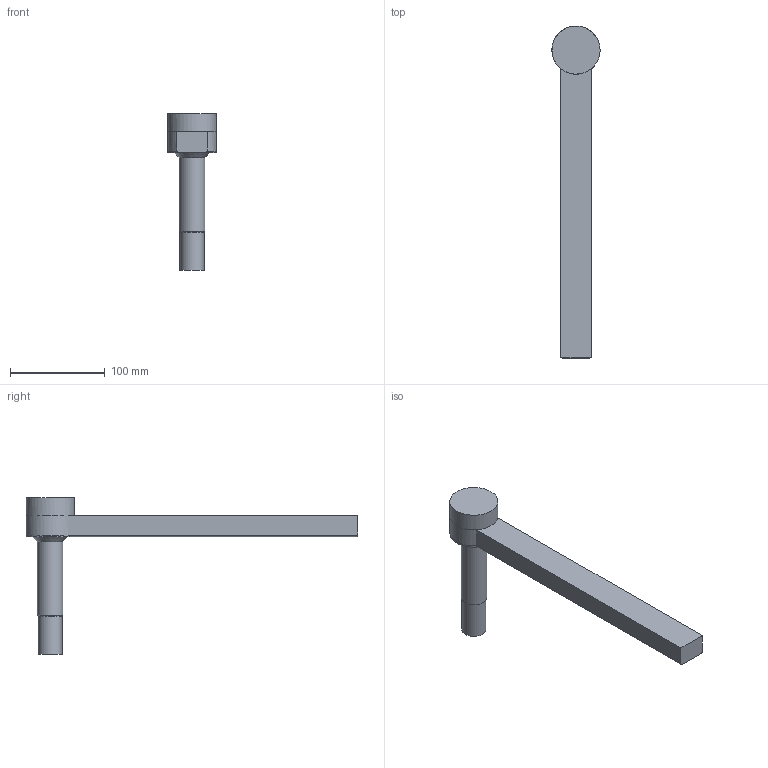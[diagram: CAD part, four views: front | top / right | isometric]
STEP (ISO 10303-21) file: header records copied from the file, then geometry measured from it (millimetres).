
FILE_DESCRIPTION(/* description */ (''),/* implementation_level */ '2;1');
FILE_NAME(/* name */ 'B0893TRUPas.stp',/* time_stamp */ '2019-10-03T11:20:04-04:00',/* author */ (''),/* organization */ (''),/* preprocessor_version */ 'ST-DEVELOPER v16',/* originating_system */ 'SIEMENS PLM Software NX 11.0',/* authorisation */ '');
FILE_SCHEMA (('AUTOMOTIVE_DESIGN { 1 0 10303 214 3 1 1 1 }'));
Length unit declared in the file: inch
Products named in the file (3): B0893TRUPd; B08XX_SubSolid; B0893TRUPas
Assembly tree (2 placements, depth 2):
  B0893TRUPas
    B08XX_SubSolid
    B0893TRUPd
Bounding box: 50.91 x 350.87 x 165.89 mm (x, y, z)
Volume: 458460.9 mm3; surface area: 75440.5 mm2
Topology: 2 solids, 3 shells, 34 faces, 72 edges, 45 vertices
Faces by surface type: plane 13, cylinder 10, cone 6, torus 3, sphere 1, revolution 1
Full cylindrical faces by diameter (mm): 8.731 x2, 25.4 x2, 26.987 x1, 50.927 x1
Entity records: 874 total; most frequent: CARTESIAN_POINT 167, DIRECTION 142, ORIENTED_EDGE 96, AXIS2_PLACEMENT_3D 62, EDGE_LOOP 54, EDGE_CURVE 48, FACE_BOUND 45, VERTEX_POINT 40
